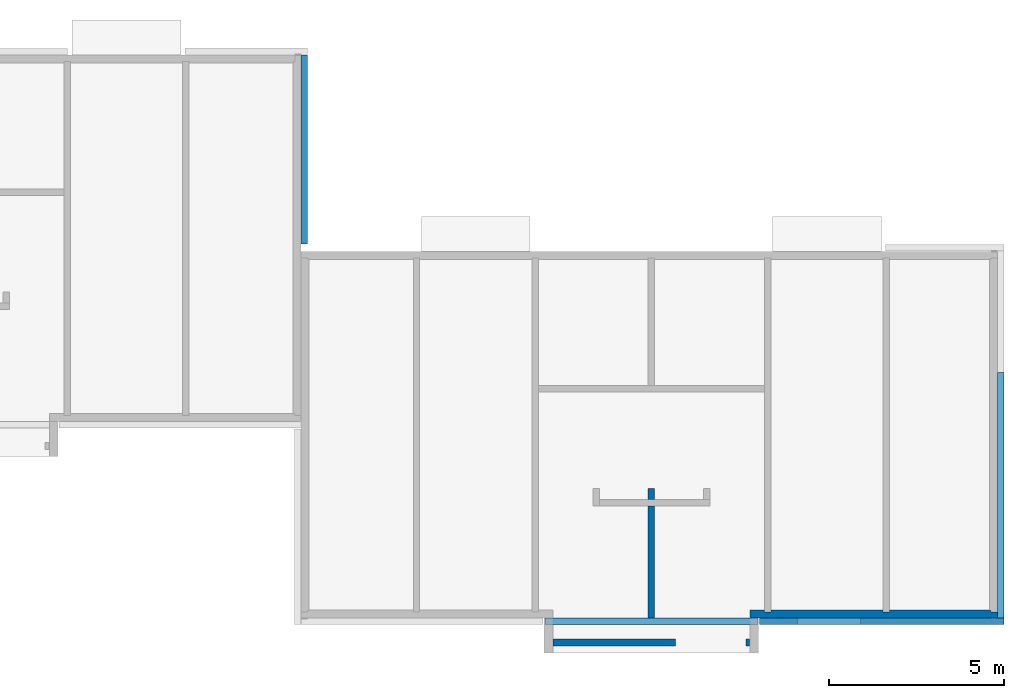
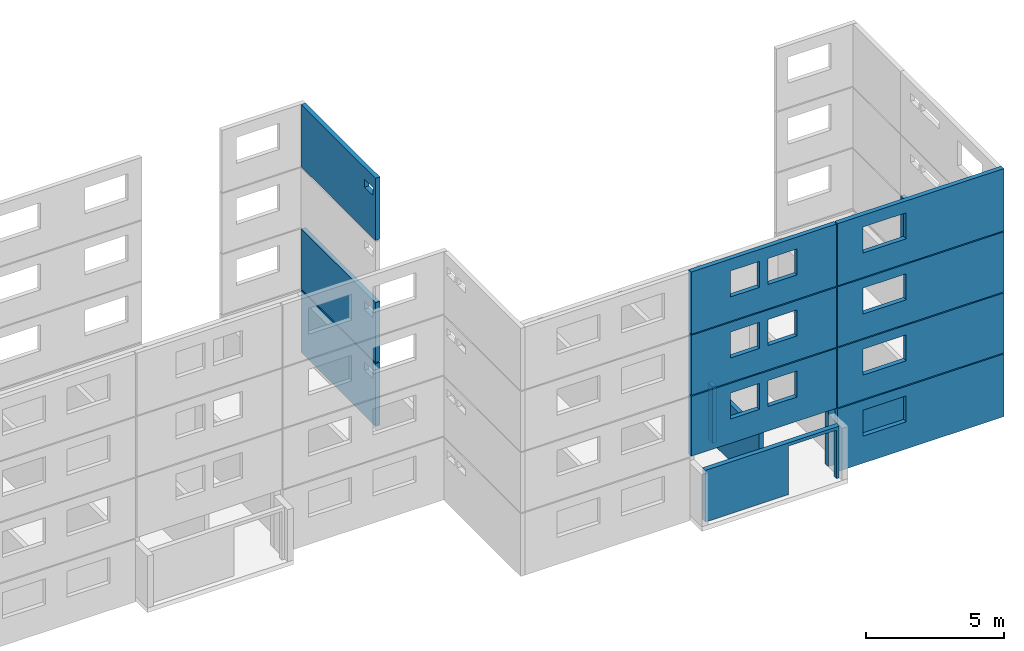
# One storey, part 13 of 15: 15 walls, 17 openings.
"""IFC2X3 building model written with IfcOpenShell, lengths in metres."""

from ifc_helpers import new_model, si_unit, frame, origin, place, context, project, spatial, faceted_brep, element, save


model = new_model("IFC2X3")

# Units and contexts
model_context = context("Model", 3, precision=1e-06, world=origin())
ifc_project = project(units=[si_unit("LENGTHUNIT", "METRE"), si_unit("PLANEANGLEUNIT", "RADIAN")], contexts=[model_context])

# Site, building, storey
site = spatial("IfcSite", under=ifc_project, CompositionType="ELEMENT")
building = spatial("IfcBuilding", under=site, CompositionType="ELEMENT")
storey = spatial("IfcBuildingStorey", under=building, Name="rdc", CompositionType="ELEMENT", Elevation=0.0)

# Wall, opening
placement = place(None, origin())
wall_1_placement = place(placement, frame((52.76999999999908, -5.766837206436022, 5.325000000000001), z_axis=(0.0, 0.0, 1.0), x_axis=(1.0, 0.0, 0.0)))
wall_1 = element("IfcWall", 1, at=wall_1_placement, inside=storey, Name="rdc1", context=model_context, shape_type="Brep", body=[
    faceted_brep([(0.0, 0.0, 2.65), (0.0, 0.187, 2.65), (0.0, 0.187, 0.0), (0.0, 0.0, 0.0), (0.0, 0.187, 2.65), (6.966999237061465, 0.187, 2.65), (6.966999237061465, 0.187, 0.0), (0.0, 0.187, 0.0), (6.966999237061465, 0.187, 2.65), (6.966999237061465, 0.0, 2.65), (6.966999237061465, 0.0, 0.0), (6.966999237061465, 0.187, 0.0), (6.966999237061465, 0.0, 2.65), (0.0, 0.0, 2.65), (0.0, 0.0, 0.0), (6.966999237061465, 0.0, 0.0), (0.0, 0.0, 2.65), (6.966999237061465, 0.0, 2.65), (6.966999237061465, 0.187, 2.65), (0.0, 0.187, 2.65), (0.0, 0.0, 0.0), (0.0, 0.187, 0.0), (6.966999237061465, 0.187, 0.0), (6.966999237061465, 0.0, 0.0)], [[[0, 1, 2, 3]], [[4, 5, 6, 7]], [[8, 9, 10, 11]], [[12, 13, 14, 15]], [[16, 17, 18, 19]], [[20, 21, 22, 23]]]),
])
opening_1_placement = place(placement, frame((53.84499999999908, -5.766837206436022, 6.4), z_axis=(0.0, 0.0, 1.0), x_axis=(1.0, 0.0, 0.0)))
element("IfcOpeningElement", 2, at=opening_1_placement, cuts=wall_1, Name="Opening", context=model_context, shape_type="Brep", body=[
    faceted_brep([(0.0, 0.187, 0.0), (1.8, 0.187, 0.0), (1.8, 0.0, 0.0), (0.0, 0.0, 0.0), (1.8, 0.0, 1.15), (1.8, 0.187, 1.15), (0.0, 0.187, 1.15), (0.0, 0.0, 1.15), (0.0, 0.187, 0.0), (0.0, 0.0, 0.0), (0.0, 0.0, 1.15), (0.0, 0.187, 1.15), (1.8, 0.187, 0.0), (0.0, 0.187, 0.0), (0.0, 0.187, 1.15), (1.8, 0.187, 1.15), (1.8, 0.0, 0.0), (1.8, 0.187, 0.0), (1.8, 0.187, 1.15), (1.8, 0.0, 1.15), (0.0, 0.0, 0.0), (1.8, 0.0, 0.0), (1.8, 0.0, 1.15), (0.0, 0.0, 1.15)], [[[0, 1, 2, 3]], [[4, 5, 6, 7]], [[8, 9, 10, 11]], [[12, 13, 14, 15]], [[16, 17, 18, 19]], [[20, 21, 22, 23]]]),
])

wall_2_placement = place(placement, frame((52.76999999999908, -5.766837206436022, -0.2), z_axis=(0.0, 0.0, 1.0), x_axis=(1.0, 0.0, 0.0)))
wall_2 = element("IfcWall", 3, at=wall_2_placement, inside=storey, Name="rdc1", context=model_context, shape_type="Brep", body=[
    faceted_brep([(0.0, 0.0, 2.775), (0.0, 0.187, 2.775), (0.0, 0.187, 0.0), (0.0, 0.0, 0.0), (0.0, 0.187, 2.775), (6.966999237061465, 0.187, 2.775), (6.966999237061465, 0.187, 0.0), (0.0, 0.187, 0.0), (6.966999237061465, 0.187, 2.775), (6.966999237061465, 0.0, 2.775), (6.966999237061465, 0.0, 0.0), (6.966999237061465, 0.187, 0.0), (6.966999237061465, 0.0, 2.775), (0.0, 0.0, 2.775), (0.0, 0.0, 0.0), (6.966999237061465, 0.0, 0.0), (0.0, 0.0, 2.775), (6.966999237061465, 0.0, 2.775), (6.966999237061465, 0.187, 2.775), (0.0, 0.187, 2.775), (0.0, 0.0, 0.0), (0.0, 0.187, 0.0), (6.966999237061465, 0.187, 0.0), (6.966999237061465, 0.0, 0.0)], [[[0, 1, 2, 3]], [[4, 5, 6, 7]], [[8, 9, 10, 11]], [[12, 13, 14, 15]], [[16, 17, 18, 19]], [[20, 21, 22, 23]]]),
])
opening_2_placement = place(placement, frame((53.84499999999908, -5.766837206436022, 1.0), z_axis=(0.0, 0.0, 1.0), x_axis=(1.0, 0.0, 0.0)))
element("IfcOpeningElement", 4, at=opening_2_placement, cuts=wall_2, Name="Opening", context=model_context, shape_type="Brep", body=[
    faceted_brep([(0.0, 0.187, 0.0), (1.8, 0.187, 0.0), (1.8, 0.0, 0.0), (0.0, 0.0, 0.0), (1.8, 0.0, 1.15), (1.8, 0.187, 1.15), (0.0, 0.187, 1.15), (0.0, 0.0, 1.15), (0.0, 0.187, 0.0), (0.0, 0.0, 0.0), (0.0, 0.0, 1.15), (0.0, 0.187, 1.15), (1.8, 0.187, 0.0), (0.0, 0.187, 0.0), (0.0, 0.187, 1.15), (1.8, 0.187, 1.15), (1.8, 0.0, 0.0), (1.8, 0.187, 0.0), (1.8, 0.187, 1.15), (1.8, 0.0, 1.15), (0.0, 0.0, 0.0), (1.8, 0.0, 0.0), (1.8, 0.0, 1.15), (0.0, 0.0, 1.15)], [[[0, 1, 2, 3]], [[4, 5, 6, 7]], [[8, 9, 10, 11]], [[12, 13, 14, 15]], [[16, 17, 18, 19]], [[20, 21, 22, 23]]]),
])

# Wall, openings
wall_3_placement = place(placement, frame((59.736999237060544, -5.579837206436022, 2.625), z_axis=(0.0, 0.0, 1.0), x_axis=(0.0, 1.0, 0.0)))
wall_3 = element("IfcWall", 5, at=wall_3_placement, inside=storey, Name="rdc1", context=model_context, shape_type="Brep", body=[
    faceted_brep([(0.0, 0.0, 2.65), (0.0, 0.187, 2.65), (0.0, 0.187, 0.0), (0.0, 0.0, 0.0), (0.0, 0.187, 2.65), (7.0, 0.187, 2.65), (7.0, 0.187, 0.0), (0.0, 0.187, 0.0), (7.0, 0.187, 2.65), (7.0, 0.0, 2.65), (7.0, 0.0, 0.0), (7.0, 0.187, 0.0), (7.0, 0.0, 2.65), (0.0, 0.0, 2.65), (0.0, 0.0, 0.0), (7.0, 0.0, 0.0), (0.0, 0.0, 2.65), (7.0, 0.0, 2.65), (7.0, 0.187, 2.65), (0.0, 0.187, 2.65), (0.0, 0.0, 0.0), (0.0, 0.187, 0.0), (7.0, 0.187, 0.0), (7.0, 0.0, 0.0)], [[[0, 1, 2, 3]], [[4, 5, 6, 7]], [[8, 9, 10, 11]], [[12, 13, 14, 15]], [[16, 17, 18, 19]], [[20, 21, 22, 23]]]),
])
opening_3_placement = place(placement, frame((59.736999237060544, -1.379837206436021, 4.510000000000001), z_axis=(0.0, 0.0, 1.0), x_axis=(0.0, 1.0, 0.0)))
element("IfcOpeningElement", 6, at=opening_3_placement, cuts=wall_3, Name="Opening", context=model_context, shape_type="Brep", body=[
    faceted_brep([(0.0, 0.186999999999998, 0.0), (1.3, 0.186999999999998, 0.0), (1.3, 0.0, 0.0), (0.0, 0.0, 0.0), (1.3, 0.0, 0.34), (1.3, 0.186999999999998, 0.34), (0.0, 0.186999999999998, 0.34), (0.0, 0.0, 0.34), (0.0, 0.186999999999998, 0.0), (0.0, 0.0, 0.0), (0.0, 0.0, 0.34), (0.0, 0.186999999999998, 0.34), (1.3, 0.186999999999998, 0.0), (0.0, 0.186999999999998, 0.0), (0.0, 0.186999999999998, 0.34), (1.3, 0.186999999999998, 0.34), (1.3, 0.0, 0.0), (1.3, 0.186999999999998, 0.0), (1.3, 0.186999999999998, 0.34), (1.3, 0.0, 0.34), (0.0, 0.0, 0.0), (1.3, 0.0, 0.0), (1.3, 0.0, 0.34), (0.0, 0.0, 0.34)], [[[0, 1, 2, 3]], [[4, 5, 6, 7]], [[8, 9, 10, 11]], [[12, 13, 14, 15]], [[16, 17, 18, 19]], [[20, 21, 22, 23]]]),
])
opening_4_placement = place(placement, frame((59.736999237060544, -4.504837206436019, 3.7), z_axis=(0.0, 0.0, 1.0), x_axis=(0.0, 1.0, 0.0)))
element("IfcOpeningElement", 7, at=opening_4_placement, cuts=wall_3, Name="Opening", context=model_context, shape_type="Brep", body=[
    faceted_brep([(0.0, 0.187, 0.0), (1.8, 0.187, 0.0), (1.8, 0.0, 0.0), (0.0, 0.0, 0.0), (1.8, 0.0, 1.15), (1.8, 0.187, 1.15), (0.0, 0.187, 1.15), (0.0, 0.0, 1.15), (0.0, 0.187, 0.0), (0.0, 0.0, 0.0), (0.0, 0.0, 1.15), (0.0, 0.187, 1.15), (1.8, 0.187, 0.0), (0.0, 0.187, 0.0), (0.0, 0.187, 1.15), (1.8, 0.187, 1.15), (1.8, 0.0, 0.0), (1.8, 0.187, 0.0), (1.8, 0.187, 1.15), (1.8, 0.0, 1.15), (0.0, 0.0, 0.0), (1.8, 0.0, 0.0), (1.8, 0.0, 1.15), (0.0, 0.0, 1.15)], [[[0, 1, 2, 3]], [[4, 5, 6, 7]], [[8, 9, 10, 11]], [[12, 13, 14, 15]], [[16, 17, 18, 19]], [[20, 21, 22, 23]]]),
])
opening_5_placement = place(placement, frame((59.736999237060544, 0.070162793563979, 4.510000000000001), z_axis=(0.0, 0.0, 1.0), x_axis=(0.0, 1.0, 0.0)))
element("IfcOpeningElement", 8, at=opening_5_placement, cuts=wall_3, Name="Opening", context=model_context, shape_type="Brep", body=[
    faceted_brep([(0.0, 0.186999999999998, 0.0), (0.6, 0.186999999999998, 0.0), (0.6, 0.0, 0.0), (0.0, 0.0, 0.0), (0.6, 0.0, 0.34), (0.6, 0.186999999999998, 0.34), (0.0, 0.186999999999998, 0.34), (0.0, 0.0, 0.34), (0.0, 0.186999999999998, 0.0), (0.0, 0.0, 0.0), (0.0, 0.0, 0.34), (0.0, 0.186999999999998, 0.34), (0.6, 0.186999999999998, 0.0), (0.0, 0.186999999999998, 0.0), (0.0, 0.186999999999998, 0.34), (0.6, 0.186999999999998, 0.34), (0.6, 0.0, 0.0), (0.6, 0.186999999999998, 0.0), (0.6, 0.186999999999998, 0.34), (0.6, 0.0, 0.34), (0.0, 0.0, 0.0), (0.6, 0.0, 0.0), (0.6, 0.0, 0.34), (0.0, 0.0, 0.34)], [[[0, 1, 2, 3]], [[4, 5, 6, 7]], [[8, 9, 10, 11]], [[12, 13, 14, 15]], [[16, 17, 18, 19]], [[20, 21, 22, 23]]]),
])

# Wall, opening
wall_4_placement = place(placement, frame((39.886999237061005, 5.080077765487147, 8.025000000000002), z_axis=(0.0, 0.0, 1.0), x_axis=(0.0, 1.0, 0.0)))
wall_4 = element("IfcWall", 9, at=wall_4_placement, inside=storey, Name="rdc1", context=model_context, shape_type="Brep", body=[
    faceted_brep([(0.0, 0.0, 2.749999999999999), (0.0, 0.187, 2.749999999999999), (0.0, 0.187, 0.0), (0.0, 0.0, 0.0), (0.0, 0.187, 2.749999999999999), (5.389999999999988, 0.187, 2.749999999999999), (5.389999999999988, 0.187, 0.0), (0.0, 0.187, 0.0), (5.389999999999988, 0.187, 2.749999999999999), (5.389999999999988, 0.0, 2.749999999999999), (5.389999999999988, 0.0, 0.0), (5.389999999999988, 0.187, 0.0), (5.389999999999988, 0.0, 2.749999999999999), (0.0, 0.0, 2.749999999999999), (0.0, 0.0, 0.0), (5.389999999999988, 0.0, 0.0), (0.0, 0.0, 2.749999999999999), (5.389999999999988, 0.0, 2.749999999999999), (5.389999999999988, 0.187, 2.749999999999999), (0.0, 0.187, 2.749999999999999), (0.0, 0.0, 0.0), (0.0, 0.187, 0.0), (5.389999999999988, 0.187, 0.0), (5.389999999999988, 0.0, 0.0)], [[[0, 1, 2, 3]], [[4, 5, 6, 7]], [[8, 9, 10, 11]], [[12, 13, 14, 15]], [[16, 17, 18, 19]], [[20, 21, 22, 23]]]),
])
opening_6_placement = place(placement, frame((39.886999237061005, 5.270077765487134, 9.910000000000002), z_axis=(0.0, 0.0, 1.0), x_axis=(0.0, 1.0, 0.0)))
element("IfcOpeningElement", 10, at=opening_6_placement, cuts=wall_4, Name="Opening", context=model_context, shape_type="Brep", body=[
    faceted_brep([(0.0, 0.187, 0.0), (0.6, 0.187, 0.0), (0.6, 0.0, 0.0), (0.0, 0.0, 0.0), (0.6, 0.0, 0.34), (0.6, 0.187, 0.34), (0.0, 0.187, 0.34), (0.0, 0.0, 0.34), (0.0, 0.187, 0.0), (0.0, 0.0, 0.0), (0.0, 0.0, 0.34), (0.0, 0.187, 0.34), (0.6, 0.187, 0.0), (0.0, 0.187, 0.0), (0.0, 0.187, 0.34), (0.6, 0.187, 0.34), (0.6, 0.0, 0.0), (0.6, 0.187, 0.0), (0.6, 0.187, 0.34), (0.6, 0.0, 0.34), (0.0, 0.0, 0.0), (0.6, 0.0, 0.0), (0.6, 0.0, 0.34), (0.0, 0.0, 0.34)], [[[0, 1, 2, 3]], [[4, 5, 6, 7]], [[8, 9, 10, 11]], [[12, 13, 14, 15]], [[16, 17, 18, 19]], [[20, 21, 22, 23]]]),
])

wall_5_placement = place(placement, frame((52.76999999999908, -5.766837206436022, 8.025000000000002), z_axis=(0.0, 0.0, 1.0), x_axis=(1.0, 0.0, 0.0)))
wall_5 = element("IfcWall", 11, at=wall_5_placement, inside=storey, Name="rdc1", context=model_context, shape_type="Brep", body=[
    faceted_brep([(0.0, 0.0, 2.749999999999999), (0.0, 0.187, 2.749999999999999), (0.0, 0.187, 0.0), (0.0, 0.0, 0.0), (0.0, 0.187, 2.749999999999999), (6.966999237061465, 0.187, 2.749999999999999), (6.966999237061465, 0.187, 0.0), (0.0, 0.187, 0.0), (6.966999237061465, 0.187, 2.749999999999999), (6.966999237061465, 0.0, 2.749999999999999), (6.966999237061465, 0.0, 0.0), (6.966999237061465, 0.187, 0.0), (6.966999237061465, 0.0, 2.749999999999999), (0.0, 0.0, 2.749999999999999), (0.0, 0.0, 0.0), (6.966999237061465, 0.0, 0.0), (0.0, 0.0, 2.749999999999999), (6.966999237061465, 0.0, 2.749999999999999), (6.966999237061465, 0.187, 2.749999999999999), (0.0, 0.187, 2.749999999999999), (0.0, 0.0, 0.0), (0.0, 0.187, 0.0), (6.966999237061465, 0.187, 0.0), (6.966999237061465, 0.0, 0.0)], [[[0, 1, 2, 3]], [[4, 5, 6, 7]], [[8, 9, 10, 11]], [[12, 13, 14, 15]], [[16, 17, 18, 19]], [[20, 21, 22, 23]]]),
])
opening_7_placement = place(placement, frame((53.84499999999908, -5.766837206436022, 9.100000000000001), z_axis=(0.0, 0.0, 1.0), x_axis=(1.0, 0.0, 0.0)))
element("IfcOpeningElement", 12, at=opening_7_placement, cuts=wall_5, Name="Opening", context=model_context, shape_type="Brep", body=[
    faceted_brep([(0.0, 0.187, 0.0), (1.8, 0.187, 0.0), (1.8, 0.0, 0.0), (0.0, 0.0, 0.0), (1.8, 0.0, 1.15), (1.8, 0.187, 1.15), (0.0, 0.187, 1.15), (0.0, 0.0, 1.15), (0.0, 0.187, 0.0), (0.0, 0.0, 0.0), (0.0, 0.0, 1.15), (0.0, 0.187, 1.15), (1.8, 0.187, 0.0), (0.0, 0.187, 0.0), (0.0, 0.187, 1.15), (1.8, 0.187, 1.15), (1.8, 0.0, 0.0), (1.8, 0.187, 0.0), (1.8, 0.187, 1.15), (1.8, 0.0, 1.15), (0.0, 0.0, 0.0), (1.8, 0.0, 0.0), (1.8, 0.0, 1.15), (0.0, 0.0, 1.15)], [[[0, 1, 2, 3]], [[4, 5, 6, 7]], [[8, 9, 10, 11]], [[12, 13, 14, 15]], [[16, 17, 18, 19]], [[20, 21, 22, 23]]]),
])

wall_6_placement = place(placement, frame((52.76999999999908, -5.766837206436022, 2.625), z_axis=(0.0, 0.0, 1.0), x_axis=(1.0, 0.0, 0.0)))
wall_6 = element("IfcWall", 13, at=wall_6_placement, inside=storey, Name="rdc1", context=model_context, shape_type="Brep", body=[
    faceted_brep([(0.0, 0.0, 2.65), (0.0, 0.187, 2.65), (0.0, 0.187, 0.0), (0.0, 0.0, 0.0), (0.0, 0.187, 2.65), (6.966999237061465, 0.187, 2.65), (6.966999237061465, 0.187, 0.0), (0.0, 0.187, 0.0), (6.966999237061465, 0.187, 2.65), (6.966999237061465, 0.0, 2.65), (6.966999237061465, 0.0, 0.0), (6.966999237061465, 0.187, 0.0), (6.966999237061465, 0.0, 2.65), (0.0, 0.0, 2.65), (0.0, 0.0, 0.0), (6.966999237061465, 0.0, 0.0), (0.0, 0.0, 2.65), (6.966999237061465, 0.0, 2.65), (6.966999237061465, 0.187, 2.65), (0.0, 0.187, 2.65), (0.0, 0.0, 0.0), (0.0, 0.187, 0.0), (6.966999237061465, 0.187, 0.0), (6.966999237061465, 0.0, 0.0)], [[[0, 1, 2, 3]], [[4, 5, 6, 7]], [[8, 9, 10, 11]], [[12, 13, 14, 15]], [[16, 17, 18, 19]], [[20, 21, 22, 23]]]),
])
opening_8_placement = place(placement, frame((53.84499999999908, -5.766837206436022, 3.7), z_axis=(0.0, 0.0, 1.0), x_axis=(1.0, 0.0, 0.0)))
element("IfcOpeningElement", 14, at=opening_8_placement, cuts=wall_6, Name="Opening", context=model_context, shape_type="Brep", body=[
    faceted_brep([(0.0, 0.187, 0.0), (1.8, 0.187, 0.0), (1.8, 0.0, 0.0), (0.0, 0.0, 0.0), (1.8, 0.0, 1.15), (1.8, 0.187, 1.15), (0.0, 0.187, 1.15), (0.0, 0.0, 1.15), (0.0, 0.187, 0.0), (0.0, 0.0, 0.0), (0.0, 0.0, 1.15), (0.0, 0.187, 1.15), (1.8, 0.187, 0.0), (0.0, 0.187, 0.0), (0.0, 0.187, 1.15), (1.8, 0.187, 1.15), (1.8, 0.0, 0.0), (1.8, 0.187, 0.0), (1.8, 0.187, 1.15), (1.8, 0.0, 1.15), (0.0, 0.0, 0.0), (1.8, 0.0, 0.0), (1.8, 0.0, 1.15), (0.0, 0.0, 1.15)], [[[0, 1, 2, 3]], [[4, 5, 6, 7]], [[8, 9, 10, 11]], [[12, 13, 14, 15]], [[16, 17, 18, 19]], [[20, 21, 22, 23]]]),
])

wall_7_placement = place(placement, frame((39.886999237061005, 5.080077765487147, -0.2), z_axis=(0.0, 0.0, 1.0), x_axis=(0.0, 1.0, 0.0)))
wall_7 = element("IfcWall", 15, at=wall_7_placement, inside=storey, Name="rdc1", context=model_context, shape_type="Brep", body=[
    faceted_brep([(0.0, 0.0, 2.775), (0.0, 0.187, 2.775), (0.0, 0.187, 0.0), (0.0, 0.0, 0.0), (0.0, 0.187, 2.775), (5.389999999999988, 0.187, 2.775), (5.389999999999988, 0.187, 0.0), (0.0, 0.187, 0.0), (5.389999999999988, 0.187, 2.775), (5.389999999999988, 0.0, 2.775), (5.389999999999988, 0.0, 0.0), (5.389999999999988, 0.187, 0.0), (5.389999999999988, 0.0, 2.775), (0.0, 0.0, 2.775), (0.0, 0.0, 0.0), (5.389999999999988, 0.0, 0.0), (0.0, 0.0, 2.775), (5.389999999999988, 0.0, 2.775), (5.389999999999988, 0.187, 2.775), (0.0, 0.187, 2.775), (0.0, 0.0, 0.0), (0.0, 0.187, 0.0), (5.389999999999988, 0.187, 0.0), (5.389999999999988, 0.0, 0.0)], [[[0, 1, 2, 3]], [[4, 5, 6, 7]], [[8, 9, 10, 11]], [[12, 13, 14, 15]], [[16, 17, 18, 19]], [[20, 21, 22, 23]]]),
])
opening_9_placement = place(placement, frame((39.886999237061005, 5.270077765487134, 1.81), z_axis=(0.0, 0.0, 1.0), x_axis=(0.0, 1.0, 0.0)))
element("IfcOpeningElement", 16, at=opening_9_placement, cuts=wall_7, Name="Opening", context=model_context, shape_type="Brep", body=[
    faceted_brep([(0.0, 0.187, 0.0), (0.6, 0.187, 0.0), (0.6, 0.0, 0.0), (0.0, 0.0, 0.0), (0.6, 0.0, 0.34), (0.6, 0.187, 0.34), (0.0, 0.187, 0.34), (0.0, 0.0, 0.34), (0.0, 0.187, 0.0), (0.0, 0.0, 0.0), (0.0, 0.0, 0.34), (0.0, 0.187, 0.34), (0.6, 0.187, 0.0), (0.0, 0.187, 0.0), (0.0, 0.187, 0.34), (0.6, 0.187, 0.34), (0.6, 0.0, 0.0), (0.6, 0.187, 0.0), (0.6, 0.187, 0.34), (0.6, 0.0, 0.34), (0.0, 0.0, 0.0), (0.6, 0.0, 0.0), (0.6, 0.0, 0.34), (0.0, 0.0, 0.34)], [[[0, 1, 2, 3]], [[4, 5, 6, 7]], [[8, 9, 10, 11]], [[12, 13, 14, 15]], [[16, 17, 18, 19]], [[20, 21, 22, 23]]]),
])

wall_8_placement = place(placement, frame((39.886999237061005, 5.080077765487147, 2.625), z_axis=(0.0, 0.0, 1.0), x_axis=(0.0, 1.0, 0.0)))
wall_8 = element("IfcWall", 17, at=wall_8_placement, inside=storey, Name="rdc1", context=model_context, shape_type="Brep", body=[
    faceted_brep([(0.0, 0.0, 2.65), (0.0, 0.187, 2.65), (0.0, 0.187, 0.0), (0.0, 0.0, 0.0), (0.0, 0.187, 2.65), (5.389999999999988, 0.187, 2.65), (5.389999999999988, 0.187, 0.0), (0.0, 0.187, 0.0), (5.389999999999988, 0.187, 2.65), (5.389999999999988, 0.0, 2.65), (5.389999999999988, 0.0, 0.0), (5.389999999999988, 0.187, 0.0), (5.389999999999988, 0.0, 2.65), (0.0, 0.0, 2.65), (0.0, 0.0, 0.0), (5.389999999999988, 0.0, 0.0), (0.0, 0.0, 2.65), (5.389999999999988, 0.0, 2.65), (5.389999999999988, 0.187, 2.65), (0.0, 0.187, 2.65), (0.0, 0.0, 0.0), (0.0, 0.187, 0.0), (5.389999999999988, 0.187, 0.0), (5.389999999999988, 0.0, 0.0)], [[[0, 1, 2, 3]], [[4, 5, 6, 7]], [[8, 9, 10, 11]], [[12, 13, 14, 15]], [[16, 17, 18, 19]], [[20, 21, 22, 23]]]),
])
opening_10_placement = place(placement, frame((39.886999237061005, 5.270077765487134, 4.510000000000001), z_axis=(0.0, 0.0, 1.0), x_axis=(0.0, 1.0, 0.0)))
element("IfcOpeningElement", 18, at=opening_10_placement, cuts=wall_8, Name="Opening", context=model_context, shape_type="Brep", body=[
    faceted_brep([(0.0, 0.187, 0.0), (0.6, 0.187, 0.0), (0.6, 0.0, 0.0), (0.0, 0.0, 0.0), (0.6, 0.0, 0.34), (0.6, 0.187, 0.34), (0.0, 0.187, 0.34), (0.0, 0.0, 0.34), (0.0, 0.187, 0.0), (0.0, 0.0, 0.0), (0.0, 0.0, 0.34), (0.0, 0.187, 0.34), (0.6, 0.187, 0.0), (0.0, 0.187, 0.0), (0.0, 0.187, 0.34), (0.6, 0.187, 0.34), (0.6, 0.0, 0.0), (0.6, 0.187, 0.0), (0.6, 0.187, 0.34), (0.6, 0.0, 0.34), (0.0, 0.0, 0.0), (0.6, 0.0, 0.0), (0.6, 0.0, 0.34), (0.0, 0.0, 0.34)], [[[0, 1, 2, 3]], [[4, 5, 6, 7]], [[8, 9, 10, 11]], [[12, 13, 14, 15]], [[16, 17, 18, 19]], [[20, 21, 22, 23]]]),
])

wall_9_placement = place(placement, frame((46.88499999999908, -6.379922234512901, 0.0), z_axis=(0.0, 0.0, 1.0), x_axis=(1.0, 0.0, 0.0)))
wall_9 = element("IfcWall", 19, at=wall_9_placement, inside=storey, Name="rdc entrée", context=model_context, shape_type="Brep", body=[
    faceted_brep([(0.0, 0.0, 2.290000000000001), (0.0, 0.2, 2.290000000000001), (0.0, 0.2, 0.0), (0.0, 0.0, 0.0), (0.0, 0.2, 2.290000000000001), (5.600000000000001, 0.2, 2.290000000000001), (5.600000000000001, 0.2, 0.0), (0.0, 0.2, 0.0), (5.600000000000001, 0.2, 2.290000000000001), (5.600000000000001, 0.0, 2.290000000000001), (5.600000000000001, 0.0, 0.0), (5.600000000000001, 0.2, 0.0), (5.600000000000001, 0.0, 2.290000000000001), (0.0, 0.0, 2.290000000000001), (0.0, 0.0, 0.0), (5.600000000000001, 0.0, 0.0), (0.0, 0.0, 2.290000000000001), (5.600000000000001, 0.0, 2.290000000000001), (5.600000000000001, 0.2, 2.290000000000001), (0.0, 0.2, 2.290000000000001), (0.0, 0.0, 0.0), (0.0, 0.2, 0.0), (5.600000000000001, 0.2, 0.0), (5.600000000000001, 0.0, 0.0)], [[[0, 1, 2, 3]], [[4, 5, 6, 7]], [[8, 9, 10, 11]], [[12, 13, 14, 15]], [[16, 17, 18, 19]], [[20, 21, 22, 23]]]),
])
opening_11_placement = place(placement, frame((50.37499999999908, -6.379922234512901, 0.0), z_axis=(0.0, 0.0, 1.0), x_axis=(1.0, 0.0, 0.0)))
element("IfcOpeningElement", 20, at=opening_11_placement, cuts=wall_9, Name="Opening", context=model_context, shape_type="Brep", body=[
    faceted_brep([(0.0, 0.2, 0.0), (2.0, 0.2, 0.0), (2.0, 0.0, 0.0), (0.0, 0.0, 0.0), (2.0, 0.0, 2.15), (2.0, 0.2, 2.15), (0.0, 0.2, 2.15), (0.0, 0.0, 2.15), (0.0, 0.2, 0.0), (0.0, 0.0, 0.0), (0.0, 0.0, 2.15), (0.0, 0.2, 2.15), (2.0, 0.2, 0.0), (0.0, 0.2, 0.0), (0.0, 0.2, 2.15), (2.0, 0.2, 2.15), (2.0, 0.0, 0.0), (2.0, 0.2, 0.0), (2.0, 0.2, 2.15), (2.0, 0.0, 2.15), (0.0, 0.0, 0.0), (2.0, 0.0, 0.0), (2.0, 0.0, 2.15), (0.0, 0.0, 2.15)], [[[0, 1, 2, 3]], [[4, 5, 6, 7]], [[8, 9, 10, 11]], [[12, 13, 14, 15]], [[16, 17, 18, 19]], [[20, 21, 22, 23]]]),
])

# Wall, openings
wall_10_placement = place(placement, frame((46.64999999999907, -5.766922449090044, 2.625000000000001), z_axis=(0.0, 0.0, 1.0), x_axis=(1.0, 0.0, 0.0)))
wall_10 = element("IfcWall", 21, at=wall_10_placement, inside=storey, Name="rdc2", context=model_context, shape_type="Brep", body=[
    faceted_brep([(0.0, 0.0, 2.65), (0.0, 0.187, 2.65), (0.0, 0.187, 0.0), (0.0, 0.0, 0.0), (0.0, 0.187, 2.65), (6.070000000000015, 0.187, 2.65), (6.070000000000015, 0.187, 0.0), (0.0, 0.187, 0.0), (6.070000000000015, 0.187, 2.65), (6.070000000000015, 0.0, 2.65), (6.070000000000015, 0.0, 0.0), (6.070000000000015, 0.187, 0.0), (6.070000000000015, 0.0, 2.65), (0.0, 0.0, 2.65), (0.0, 0.0, 0.0), (6.070000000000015, 0.0, 0.0), (0.0, 0.0, 2.65), (6.070000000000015, 0.0, 2.65), (6.070000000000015, 0.187, 2.65), (0.0, 0.187, 2.65), (0.0, 0.0, 0.0), (0.0, 0.187, 0.0), (6.070000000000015, 0.187, 0.0), (6.070000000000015, 0.0, 0.0)], [[[0, 1, 2, 3]], [[4, 5, 6, 7]], [[8, 9, 10, 11]], [[12, 13, 14, 15]], [[16, 17, 18, 19]], [[20, 21, 22, 23]]]),
])
opening_12_placement = place(placement, frame((49.86999999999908, -5.766922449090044, 3.700000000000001), z_axis=(0.0, 0.0, 1.0), x_axis=(1.0, 0.0, 0.0)))
element("IfcOpeningElement", 22, at=opening_12_placement, cuts=wall_10, Name="Opening", context=model_context, shape_type="Brep", body=[
    faceted_brep([(0.0, 0.187, 0.0), (1.2, 0.187, 0.0), (1.2, 0.0, 0.0), (0.0, 0.0, 0.0), (1.2, 0.0, 1.15), (1.2, 0.187, 1.15), (0.0, 0.187, 1.15), (0.0, 0.0, 1.15), (0.0, 0.187, 0.0), (0.0, 0.0, 0.0), (0.0, 0.0, 1.15), (0.0, 0.187, 1.15), (1.2, 0.187, 0.0), (0.0, 0.187, 0.0), (0.0, 0.187, 1.15), (1.2, 0.187, 1.15), (1.2, 0.0, 0.0), (1.2, 0.187, 0.0), (1.2, 0.187, 1.15), (1.2, 0.0, 1.15), (0.0, 0.0, 0.0), (1.2, 0.0, 0.0), (1.2, 0.0, 1.15), (0.0, 0.0, 1.15)], [[[0, 1, 2, 3]], [[4, 5, 6, 7]], [[8, 9, 10, 11]], [[12, 13, 14, 15]], [[16, 17, 18, 19]], [[20, 21, 22, 23]]]),
])
opening_13_placement = place(placement, frame((48.299999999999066, -5.766922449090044, 3.700000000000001), z_axis=(0.0, 0.0, 1.0), x_axis=(1.0, 0.0, 0.0)))
element("IfcOpeningElement", 23, at=opening_13_placement, cuts=wall_10, Name="Opening", context=model_context, shape_type="Brep", body=[
    faceted_brep([(0.0, 0.187, 0.0), (1.2, 0.187, 0.0), (1.2, 0.0, 0.0), (0.0, 0.0, 0.0), (1.2, 0.0, 1.15), (1.2, 0.187, 1.15), (0.0, 0.187, 1.15), (0.0, 0.0, 1.15), (0.0, 0.187, 0.0), (0.0, 0.0, 0.0), (0.0, 0.0, 1.15), (0.0, 0.187, 1.15), (1.2, 0.187, 0.0), (0.0, 0.187, 0.0), (0.0, 0.187, 1.15), (1.2, 0.187, 1.15), (1.2, 0.0, 0.0), (1.2, 0.187, 0.0), (1.2, 0.187, 1.15), (1.2, 0.0, 1.15), (0.0, 0.0, 0.0), (1.2, 0.0, 0.0), (1.2, 0.0, 1.15), (0.0, 0.0, 1.15)], [[[0, 1, 2, 3]], [[4, 5, 6, 7]], [[8, 9, 10, 11]], [[12, 13, 14, 15]], [[16, 17, 18, 19]], [[20, 21, 22, 23]]]),
])

wall_11_placement = place(placement, frame((46.64999999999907, -5.766922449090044, 5.325000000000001), z_axis=(0.0, 0.0, 1.0), x_axis=(1.0, 0.0, 0.0)))
wall_11 = element("IfcWall", 24, at=wall_11_placement, inside=storey, Name="rdc2", context=model_context, shape_type="Brep", body=[
    faceted_brep([(0.0, 0.0, 2.65), (0.0, 0.187, 2.65), (0.0, 0.187, 0.0), (0.0, 0.0, 0.0), (0.0, 0.187, 2.65), (6.070000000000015, 0.187, 2.65), (6.070000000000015, 0.187, 0.0), (0.0, 0.187, 0.0), (6.070000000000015, 0.187, 2.65), (6.070000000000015, 0.0, 2.65), (6.070000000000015, 0.0, 0.0), (6.070000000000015, 0.187, 0.0), (6.070000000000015, 0.0, 2.65), (0.0, 0.0, 2.65), (0.0, 0.0, 0.0), (6.070000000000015, 0.0, 0.0), (0.0, 0.0, 2.65), (6.070000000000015, 0.0, 2.65), (6.070000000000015, 0.187, 2.65), (0.0, 0.187, 2.65), (0.0, 0.0, 0.0), (0.0, 0.187, 0.0), (6.070000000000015, 0.187, 0.0), (6.070000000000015, 0.0, 0.0)], [[[0, 1, 2, 3]], [[4, 5, 6, 7]], [[8, 9, 10, 11]], [[12, 13, 14, 15]], [[16, 17, 18, 19]], [[20, 21, 22, 23]]]),
])
opening_14_placement = place(placement, frame((48.299999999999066, -5.766922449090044, 6.400000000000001), z_axis=(0.0, 0.0, 1.0), x_axis=(1.0, 0.0, 0.0)))
element("IfcOpeningElement", 25, at=opening_14_placement, cuts=wall_11, Name="Opening", context=model_context, shape_type="Brep", body=[
    faceted_brep([(0.0, 0.187, 0.0), (1.2, 0.187, 0.0), (1.2, 0.0, 0.0), (0.0, 0.0, 0.0), (1.2, 0.0, 1.15), (1.2, 0.187, 1.15), (0.0, 0.187, 1.15), (0.0, 0.0, 1.15), (0.0, 0.187, 0.0), (0.0, 0.0, 0.0), (0.0, 0.0, 1.15), (0.0, 0.187, 1.15), (1.2, 0.187, 0.0), (0.0, 0.187, 0.0), (0.0, 0.187, 1.15), (1.2, 0.187, 1.15), (1.2, 0.0, 0.0), (1.2, 0.187, 0.0), (1.2, 0.187, 1.15), (1.2, 0.0, 1.15), (0.0, 0.0, 0.0), (1.2, 0.0, 0.0), (1.2, 0.0, 1.15), (0.0, 0.0, 1.15)], [[[0, 1, 2, 3]], [[4, 5, 6, 7]], [[8, 9, 10, 11]], [[12, 13, 14, 15]], [[16, 17, 18, 19]], [[20, 21, 22, 23]]]),
])
opening_15_placement = place(placement, frame((49.86999999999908, -5.766922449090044, 6.400000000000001), z_axis=(0.0, 0.0, 1.0), x_axis=(1.0, 0.0, 0.0)))
element("IfcOpeningElement", 26, at=opening_15_placement, cuts=wall_11, Name="Opening", context=model_context, shape_type="Brep", body=[
    faceted_brep([(0.0, 0.187, 0.0), (1.2, 0.187, 0.0), (1.2, 0.0, 0.0), (0.0, 0.0, 0.0), (1.2, 0.0, 1.15), (1.2, 0.187, 1.15), (0.0, 0.187, 1.15), (0.0, 0.0, 1.15), (0.0, 0.187, 0.0), (0.0, 0.0, 0.0), (0.0, 0.0, 1.15), (0.0, 0.187, 1.15), (1.2, 0.187, 0.0), (0.0, 0.187, 0.0), (0.0, 0.187, 1.15), (1.2, 0.187, 1.15), (1.2, 0.0, 0.0), (1.2, 0.187, 0.0), (1.2, 0.187, 1.15), (1.2, 0.0, 1.15), (0.0, 0.0, 0.0), (1.2, 0.0, 0.0), (1.2, 0.0, 1.15), (0.0, 0.0, 1.15)], [[[0, 1, 2, 3]], [[4, 5, 6, 7]], [[8, 9, 10, 11]], [[12, 13, 14, 15]], [[16, 17, 18, 19]], [[20, 21, 22, 23]]]),
])

wall_12_placement = place(placement, frame((46.64999999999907, -5.766922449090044, 8.025000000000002), z_axis=(0.0, 0.0, 1.0), x_axis=(1.0, 0.0, 0.0)))
wall_12 = element("IfcWall", 27, at=wall_12_placement, inside=storey, Name="rdc2", context=model_context, shape_type="Brep", body=[
    faceted_brep([(0.0, 0.0, 2.75), (0.0, 0.187, 2.75), (0.0, 0.187, 0.0), (0.0, 0.0, 0.0), (0.0, 0.187, 2.75), (6.070000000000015, 0.187, 2.75), (6.070000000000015, 0.187, 0.0), (0.0, 0.187, 0.0), (6.070000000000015, 0.187, 2.75), (6.070000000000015, 0.0, 2.75), (6.070000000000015, 0.0, 0.0), (6.070000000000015, 0.187, 0.0), (6.070000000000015, 0.0, 2.75), (0.0, 0.0, 2.75), (0.0, 0.0, 0.0), (6.070000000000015, 0.0, 0.0), (0.0, 0.0, 2.75), (6.070000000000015, 0.0, 2.75), (6.070000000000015, 0.187, 2.75), (0.0, 0.187, 2.75), (0.0, 0.0, 0.0), (0.0, 0.187, 0.0), (6.070000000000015, 0.187, 0.0), (6.070000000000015, 0.0, 0.0)], [[[0, 1, 2, 3]], [[4, 5, 6, 7]], [[8, 9, 10, 11]], [[12, 13, 14, 15]], [[16, 17, 18, 19]], [[20, 21, 22, 23]]]),
])
opening_16_placement = place(placement, frame((48.299999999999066, -5.766922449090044, 9.100000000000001), z_axis=(0.0, 0.0, 1.0), x_axis=(1.0, 0.0, 0.0)))
element("IfcOpeningElement", 28, at=opening_16_placement, cuts=wall_12, Name="Opening", context=model_context, shape_type="Brep", body=[
    faceted_brep([(0.0, 0.187, 0.0), (1.2, 0.187, 0.0), (1.2, 0.0, 0.0), (0.0, 0.0, 0.0), (1.2, 0.0, 1.15), (1.2, 0.187, 1.15), (0.0, 0.187, 1.15), (0.0, 0.0, 1.15), (0.0, 0.187, 0.0), (0.0, 0.0, 0.0), (0.0, 0.0, 1.15), (0.0, 0.187, 1.15), (1.2, 0.187, 0.0), (0.0, 0.187, 0.0), (0.0, 0.187, 1.15), (1.2, 0.187, 1.15), (1.2, 0.0, 0.0), (1.2, 0.187, 0.0), (1.2, 0.187, 1.15), (1.2, 0.0, 1.15), (0.0, 0.0, 0.0), (1.2, 0.0, 0.0), (1.2, 0.0, 1.15), (0.0, 0.0, 1.15)], [[[0, 1, 2, 3]], [[4, 5, 6, 7]], [[8, 9, 10, 11]], [[12, 13, 14, 15]], [[16, 17, 18, 19]], [[20, 21, 22, 23]]]),
])
opening_17_placement = place(placement, frame((49.86999999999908, -5.766922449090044, 9.100000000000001), z_axis=(0.0, 0.0, 1.0), x_axis=(1.0, 0.0, 0.0)))
element("IfcOpeningElement", 29, at=opening_17_placement, cuts=wall_12, Name="Opening", context=model_context, shape_type="Brep", body=[
    faceted_brep([(0.0, 0.187, 0.0), (1.2, 0.187, 0.0), (1.2, 0.0, 0.0), (0.0, 0.0, 0.0), (1.2, 0.0, 1.15), (1.2, 0.187, 1.15), (0.0, 0.187, 1.15), (0.0, 0.0, 1.15), (0.0, 0.187, 0.0), (0.0, 0.0, 0.0), (0.0, 0.0, 1.15), (0.0, 0.187, 1.15), (1.2, 0.187, 0.0), (0.0, 0.187, 0.0), (0.0, 0.187, 1.15), (1.2, 0.187, 1.15), (1.2, 0.0, 0.0), (1.2, 0.187, 0.0), (1.2, 0.187, 1.15), (1.2, 0.0, 1.15), (0.0, 0.0, 0.0), (1.2, 0.0, 0.0), (1.2, 0.0, 1.15), (0.0, 0.0, 1.15)], [[[0, 1, 2, 3]], [[4, 5, 6, 7]], [[8, 9, 10, 11]], [[12, 13, 14, 15]], [[16, 17, 18, 19]], [[20, 21, 22, 23]]]),
])

# Walls
wall_13_placement = place(placement, frame((52.49499999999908, -5.579837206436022, 0.0), z_axis=(0.0, 0.0, 1.0), x_axis=(1.0, 0.0, 0.0)))
element("IfcWall", 30, at=wall_13_placement, inside=storey, context=model_context, shape_type="Brep", body=[
    faceted_brep([(0.414999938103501, 0.23, 2.5), (0.414999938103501, 0.18, 2.5), (0.414999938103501, 0.18, 0.0), (0.414999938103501, 0.23, 0.0), (0.414999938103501, 0.18, 2.5), (0.594999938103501, 0.18, 2.5), (0.594999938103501, 0.18, 0.0), (0.414999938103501, 0.18, 0.0), (0.594999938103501, 0.18, 2.5), (0.594999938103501, 0.23, 2.5), (0.594999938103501, 0.23, 0.0), (0.594999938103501, 0.18, 0.0), (0.594999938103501, 0.23, 2.5), (3.795000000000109, 0.23, 2.5), (3.795000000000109, 0.23, 0.0), (0.594999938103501, 0.23, 0.0), (3.795000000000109, 0.23, 2.5), (3.795000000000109, 0.18, 2.5), (3.795000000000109, 0.18, 0.0), (3.795000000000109, 0.23, 0.0), (3.795000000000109, 0.18, 2.5), (3.975000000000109, 0.18, 2.5), (3.975000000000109, 0.18, 0.0), (3.795000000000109, 0.18, 0.0), (3.975000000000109, 0.18, 2.5), (3.975000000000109, 0.23, 2.5), (3.975000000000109, 0.23, 0.0), (3.975000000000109, 0.18, 0.0), (3.975000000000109, 0.23, 2.5), (6.834999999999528, 0.23, 2.5), (6.834999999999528, 0.23, 0.0), (3.975000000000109, 0.23, 0.0), (6.834999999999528, 0.23, 2.5), (6.834999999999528, 0.22, 2.5), (6.834999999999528, 0.22, 0.0), (6.834999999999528, 0.23, 0.0), (6.834999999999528, 0.22, 2.5), (6.874999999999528, 0.22, 2.5), (6.874999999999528, 0.22, 0.0), (6.834999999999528, 0.22, 0.0), (6.874999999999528, 0.22, 2.5), (6.874999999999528, 0.18, 2.5), (6.874999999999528, 0.18, 0.0), (6.874999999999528, 0.22, 0.0), (6.874999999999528, 0.18, 2.5), (7.054999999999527, 0.18, 2.5), (7.054999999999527, 0.18, 0.0), (6.874999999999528, 0.18, 0.0), (7.054999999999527, 0.18, 2.5), (7.054999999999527, 0.0, 2.5), (7.054999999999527, 0.0, 0.0), (7.054999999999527, 0.18, 0.0), (7.054999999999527, 0.0, 2.5), (0.0, 0.0, 2.5), (0.0, 0.0, 0.0), (7.054999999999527, 0.0, 0.0), (0.0, 0.0, 2.5), (0.0, 0.23, 2.5), (0.0, 0.23, 0.0), (0.0, 0.0, 0.0), (0.0, 0.23, 2.5), (0.414999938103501, 0.23, 2.5), (0.414999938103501, 0.23, 0.0), (0.0, 0.23, 0.0), (0.414999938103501, 0.23, 2.5), (0.0, 0.23, 2.5), (0.0, 0.0, 2.5), (7.054999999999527, 0.0, 2.5), (7.054999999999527, 0.18, 2.5), (6.874999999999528, 0.18, 2.5), (6.874999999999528, 0.22, 2.5), (6.834999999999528, 0.22, 2.5), (6.834999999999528, 0.23, 2.5), (3.975000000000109, 0.23, 2.5), (3.975000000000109, 0.18, 2.5), (3.795000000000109, 0.18, 2.5), (3.795000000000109, 0.23, 2.5), (0.594999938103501, 0.23, 2.5), (0.594999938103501, 0.18, 2.5), (0.414999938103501, 0.18, 2.5), (0.414999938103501, 0.23, 0.0), (0.414999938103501, 0.18, 0.0), (0.594999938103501, 0.18, 0.0), (0.594999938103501, 0.23, 0.0), (3.795000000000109, 0.23, 0.0), (3.795000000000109, 0.18, 0.0), (3.975000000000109, 0.18, 0.0), (3.975000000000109, 0.23, 0.0), (6.834999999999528, 0.23, 0.0), (6.834999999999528, 0.22, 0.0), (6.874999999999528, 0.22, 0.0), (6.874999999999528, 0.18, 0.0), (7.054999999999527, 0.18, 0.0), (7.054999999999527, 0.0, 0.0), (0.0, 0.0, 0.0), (0.0, 0.23, 0.0)], [[[0, 1, 2, 3]], [[4, 5, 6, 7]], [[8, 9, 10, 11]], [[12, 13, 14, 15]], [[16, 17, 18, 19]], [[20, 21, 22, 23]], [[24, 25, 26, 27]], [[28, 29, 30, 31]], [[32, 33, 34, 35]], [[36, 37, 38, 39]], [[40, 41, 42, 43]], [[44, 45, 46, 47]], [[48, 49, 50, 51]], [[52, 53, 54, 55]], [[56, 57, 58, 59]], [[60, 61, 62, 63]], [[64, 65, 66, 67, 68, 69, 70, 71, 72, 73, 74, 75, 76, 77, 78, 79]], [[80, 81, 82, 83, 84, 85, 86, 87, 88, 89, 90, 91, 92, 93, 94, 95]]]),
])
wall_14_placement = place(placement, frame((49.77499999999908, -5.579961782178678, 0.0), z_axis=(0.0, 0.0, 1.0), x_axis=(0.0, 1.0, 0.0)))
element("IfcWall", 31, at=wall_14_placement, inside=storey, context=model_context, shape_type="Brep", body=[
    faceted_brep([(3.700039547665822, 0.18, 2.5), (3.700039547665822, 0.0, 2.5), (3.700039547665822, 0.0, 0.0), (3.700039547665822, 0.18, 0.0), (3.700039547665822, 0.0, 2.5), (3.380039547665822, 0.0, 2.5), (3.380039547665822, 0.0, 0.0), (3.700039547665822, 0.0, 0.0), (3.380039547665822, 0.0, 2.5), (3.380039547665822, 0.18, 2.5), (3.380039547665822, 0.18, 0.0), (3.380039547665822, 0.0, 0.0), (3.380039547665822, 0.18, 2.5), (3.700039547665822, 0.18, 2.5), (3.700039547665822, 0.18, 0.0), (3.380039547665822, 0.18, 0.0), (3.700039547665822, 0.18, 2.5), (3.380039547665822, 0.18, 2.5), (3.380039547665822, 0.0, 2.5), (3.700039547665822, 0.0, 2.5), (3.700039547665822, 0.18, 0.0), (3.700039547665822, 0.0, 0.0), (3.380039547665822, 0.0, 0.0), (3.380039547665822, 0.18, 0.0)], [[[0, 1, 2, 3]], [[4, 5, 6, 7]], [[8, 9, 10, 11]], [[12, 13, 14, 15]], [[16, 17, 18, 19]], [[20, 21, 22, 23]]]),
])
wall_15_placement = place(placement, frame((49.77499999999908, -5.579961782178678, 0.0), z_axis=(0.0, 0.0, 1.0), x_axis=(0.0, 1.0, 0.0)))
element("IfcWall", 32, at=wall_15_placement, inside=storey, context=model_context, shape_type="Brep", body=[
    faceted_brep([(3.200039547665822, 0.18, 2.5), (3.200039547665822, 0.0, 2.5), (3.200039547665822, 0.0, 0.0), (3.200039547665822, 0.18, 0.0), (3.200039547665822, 0.0, 2.5), (0.0, 0.0, 2.5), (0.0, 0.0, 0.0), (3.200039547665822, 0.0, 0.0), (0.0, 0.0, 2.5), (7.16957565e-07, 0.18, 2.5), (7.16957565e-07, 0.18, 0.0), (0.0, 0.0, 0.0), (7.16957565e-07, 0.18, 2.5), (3.200039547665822, 0.18, 2.5), (3.200039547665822, 0.18, 0.0), (7.16957565e-07, 0.18, 0.0), (3.200039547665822, 0.18, 2.5), (7.16957565e-07, 0.18, 2.5), (0.0, 0.0, 2.5), (3.200039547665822, 0.0, 2.5), (3.200039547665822, 0.18, 0.0), (3.200039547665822, 0.0, 0.0), (0.0, 0.0, 0.0), (7.16957565e-07, 0.18, 0.0)], [[[0, 1, 2, 3]], [[4, 5, 6, 7]], [[8, 9, 10, 11]], [[12, 13, 14, 15]], [[16, 17, 18, 19]], [[20, 21, 22, 23]]]),
])

save(model, "model.ifc")
